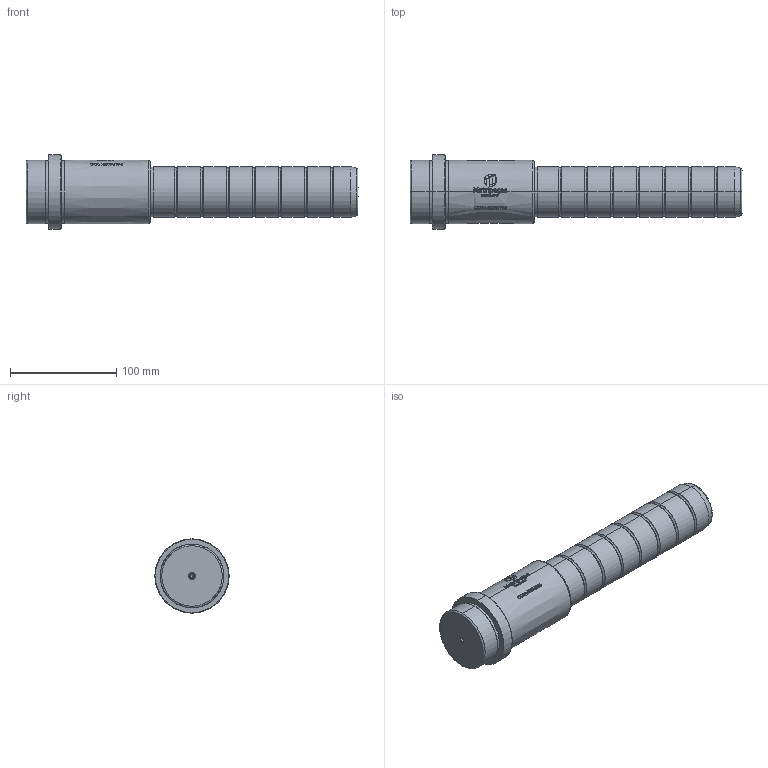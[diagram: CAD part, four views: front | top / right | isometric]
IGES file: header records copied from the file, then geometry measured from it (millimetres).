
Start section: SolidWorks IGES file using analytic representation for surfaces
Global section: file name: E:\1.TRIVECTOR\Clientes\MATRIPEÇAS\PEÇAS_CATALOGO_SITE\6.CGM - COLUNA PRINCIPAL TIPO GUIA (CATÁLOGO)\CGM48096196.IGS; native system: SolidWorks 2024; preprocessor: SolidWorks 2024; author: Gabriel Techio; date: 260910.163708; units: millimetre
Bounding box: 313 x 70 x 70 mm (x, y, z)
Surface area: 61295.6 mm2 (no closed solid volume)
Topology: 0 solids, 0 shells, 560 faces, 6550 edges, 6546 vertices
Faces by surface type: bspline 436, revolution 124
